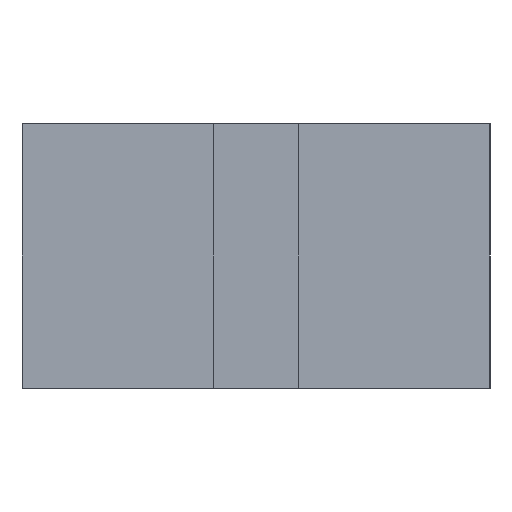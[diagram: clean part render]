
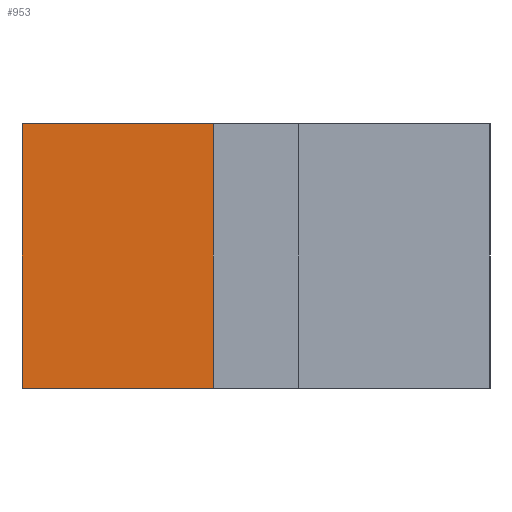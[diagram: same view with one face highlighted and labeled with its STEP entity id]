
A CAD part, front view. The second image highlights one B-rep face of the part: STEP entity #953.
In plain terms, the highlighted planar face has unit normal (0, -1, 0).
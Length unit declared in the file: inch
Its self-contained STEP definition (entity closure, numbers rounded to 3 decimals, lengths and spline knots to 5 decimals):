
#687=CARTESIAN_POINT('',(-0.16141,-0.88583,-0.5));
#688=VERTEX_POINT('',#687);
#695=CARTESIAN_POINT('',(-0.88583,-0.88583,-0.5));
#696=VERTEX_POINT('',#695);
#697=CARTESIAN_POINT('',(-0.88583,-0.88583,-0.5));
#698=DIRECTION('',(1.,0.,0.0));
#699=VECTOR('',#698,0.72441);
#700=LINE('',#697,#699);
#701=EDGE_CURVE('',#696,#688,#700,.T.);
#906=CARTESIAN_POINT('',(-0.16141,-0.88583,0.5));
#907=VERTEX_POINT('',#906);
#914=CARTESIAN_POINT('',(-0.16141,-0.88583,-0.5));
#915=DIRECTION('',(0.0,0.0,1.0));
#916=VECTOR('',#915,1.0);
#917=LINE('',#914,#916);
#918=EDGE_CURVE('',#688,#907,#917,.T.);
#930=CARTESIAN_POINT('',(-0.16141,-0.88583,0.0));
#931=DIRECTION('',(0.,-1.,0.0));
#932=DIRECTION('',(0.0,0.0,-1.0));
#933=AXIS2_PLACEMENT_3D('',#930,#931,#932);
#934=PLANE('',#933);
#935=CARTESIAN_POINT('',(-0.88583,-0.88583,0.5));
#936=VERTEX_POINT('',#935);
#937=CARTESIAN_POINT('',(-0.16141,-0.88583,0.5));
#938=DIRECTION('',(-1.,0.,0.0));
#939=VECTOR('',#938,0.72441);
#940=LINE('',#937,#939);
#941=EDGE_CURVE('',#907,#936,#940,.T.);
#942=ORIENTED_EDGE('',*,*,#941,.T.);
#943=CARTESIAN_POINT('',(-0.88583,-0.88583,-0.5));
#944=DIRECTION('',(0.0,0.0,1.0));
#945=VECTOR('',#944,1.0);
#946=LINE('',#943,#945);
#947=EDGE_CURVE('',#696,#936,#946,.T.);
#948=ORIENTED_EDGE('',*,*,#947,.F.);
#949=ORIENTED_EDGE('',*,*,#701,.T.);
#950=ORIENTED_EDGE('',*,*,#918,.T.);
#951=EDGE_LOOP('',(#942,#948,#949,#950));
#952=FACE_OUTER_BOUND('',#951,.T.);
#953=ADVANCED_FACE('',(#952),#934,.T.);
